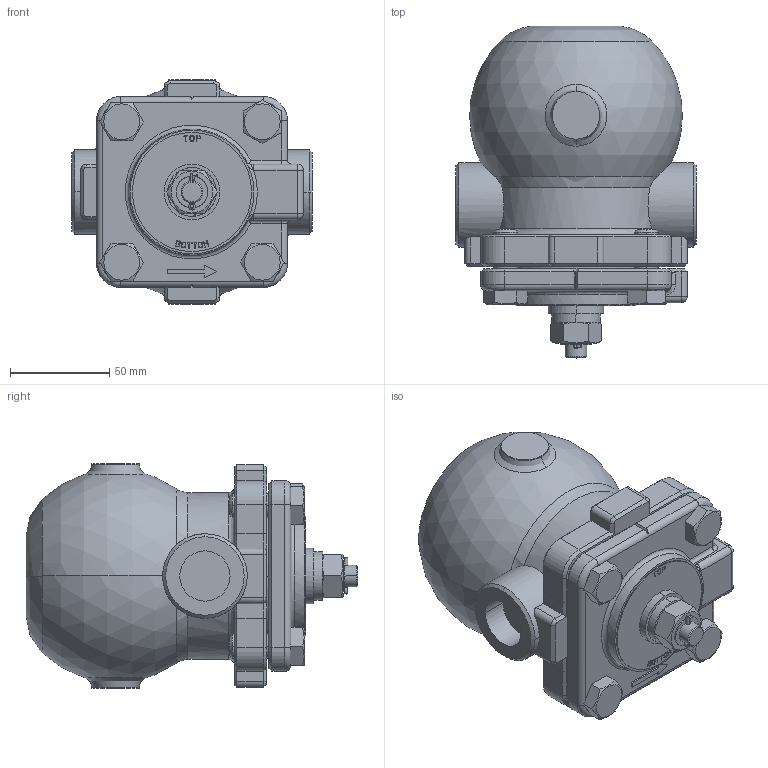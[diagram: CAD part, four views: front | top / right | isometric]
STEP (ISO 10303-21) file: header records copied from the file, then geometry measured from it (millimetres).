
FILE_DESCRIPTION( (''), '2;1');
FILE_NAME ('PC1027.9516.TSF-10　20A_9739.stp','2025-07-30T15:58:43',(''),(''),'spGate 20.6.3 (****-****-****-****)','','');
FILE_SCHEMA (('AUTOMOTIVE_DESIGN'));
Length unit declared in the file: millimetre
Products named in the file (3): Assembly; TSF-10　20A_M1; TSF-10　20A_M2
Assembly tree (2 placements, depth 2):
  Assembly
    TSF-10　20A_M1
    TSF-10　20A_M2
Bounding box: 121 x 167 x 113 mm (x, y, z)
Volume: 1069919.4 mm3; surface area: 83841.5 mm2
Topology: 2 solids, 2 shells, 478 faces, 1213 edges, 765 vertices
Faces by surface type: plane 241, bspline 124, cylinder 109, sphere 4
Entity records: 26095 total; most frequent: CARTESIAN_POINT 5806, ORIENTED_EDGE 2422, DIRECTION 1940, COLOUR_RGB 1691, PRESENTATION_STYLE_ASSIGNMENT 1691, STYLED_ITEM 1691, EDGE_CURVE 1211, DRAUGHTING_PRE_DEFINED_CURVE_FONT 1211
